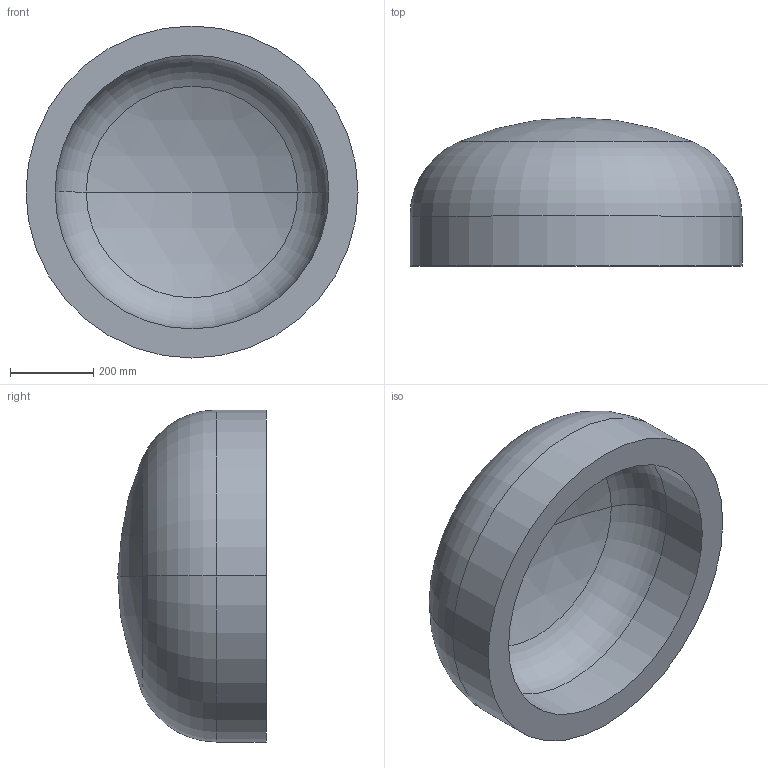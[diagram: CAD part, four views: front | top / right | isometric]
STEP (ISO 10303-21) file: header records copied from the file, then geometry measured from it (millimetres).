
FILE_DESCRIPTION (( 'STEP AP203' ), '1' );
FILE_NAME ('DIN 28013 Korbbogenform_-_Boden DIN 28013 - 800 x 120 - I - s=70.step', '2016-07-01T08:20:15', ( '' ), ( '' ), 'SwSTEP 2.0', 'SolidWorks 2013', '' );
FILE_SCHEMA (( 'CONFIG_CONTROL_DESIGN' ));
Length unit declared in the file: millimetre
Products named in the file (1): DIN 28013 Korbbogenform_-_Boden DIN 28013 - 800 x 120 - I - s=70
Bounding box: 800 x 357.56 x 800 mm (x, y, z)
Volume: 63087916.9 mm3; surface area: 1973309.6 mm2
Topology: 1 solids, 1 shells, 13 faces, 24 edges, 14 vertices
Faces by surface type: torus 4, cylinder 4, sphere 4, plane 1
Entity records: 407 total; most frequent: DIRECTION 72, CARTESIAN_POINT 52, ORIENTED_EDGE 48, AXIS2_PLACEMENT_3D 34, EDGE_CURVE 24, CIRCLE 20, VERTEX_POINT 14, EDGE_LOOP 14
